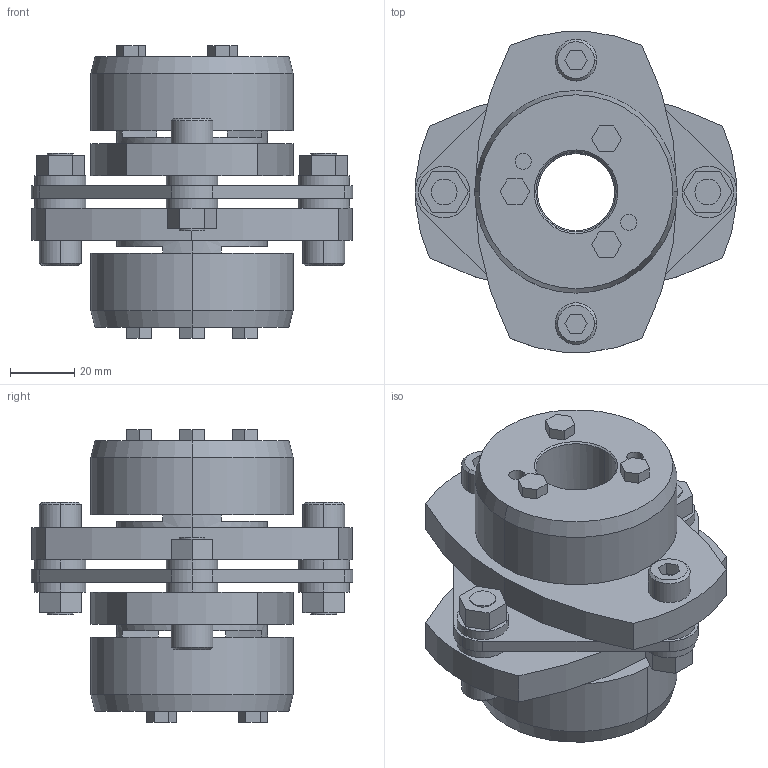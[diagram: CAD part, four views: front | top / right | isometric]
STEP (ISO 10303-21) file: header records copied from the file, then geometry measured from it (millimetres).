
FILE_DESCRIPTION((''),'2;1');
FILE_NAME('LCS-100T7-24×25.stp','2015-11-02T07:39:43',(''),(''),'AutoCAD STEP 2000i','AutoCAD 2000i',', , ');
FILE_SCHEMA(('CONFIG_CONTROL_DESIGN'));
Length unit declared in the file: millimetre
Products named in the file (7): LCS-100T7-25×25; 忣兜1; LC100T7-T025-1; LC100T7-T025; LC100T7-T022-1; LC100T7-T022; LCS100-ITA
Assembly tree (6 placements, depth 2):
  LCS-100T7-25×25
    忣兜1
    LC100T7-T025-1
    LC100T7-T025
    LC100T7-T022-1
    LC100T7-T022
    LCS100-ITA
Bounding box: 100 x 99.93 x 91 mm (x, y, z)
Volume: 254771 mm3; surface area: 62793.8 mm2
Topology: 1 solids, 1 shells, 232 faces, 568 edges, 372 vertices
Faces by surface type: plane 132, cylinder 80, cone 20
Entity records: 7063 total; most frequent: DIRECTION 1242, CARTESIAN_POINT 1179, ORIENTED_EDGE 1136, EDGE_CURVE 568, AXIS2_PLACEMENT_3D 435, VERTEX_POINT 372, VECTOR 372, LINE 372
